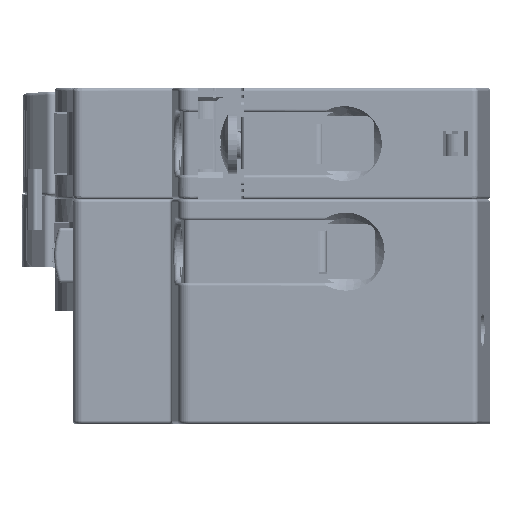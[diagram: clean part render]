
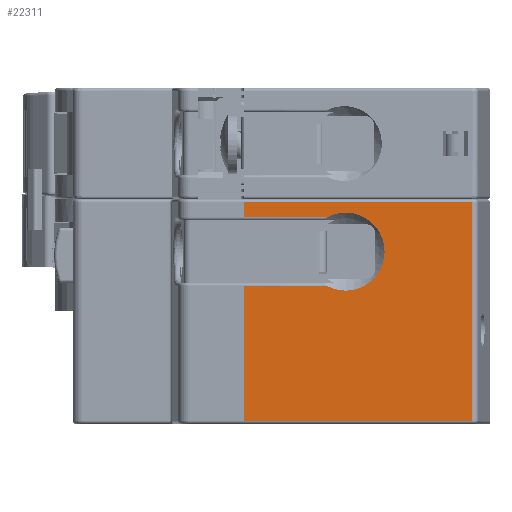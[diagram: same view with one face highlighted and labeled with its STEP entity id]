
A CAD part, left-side view. The second image highlights one B-rep face of the part: STEP entity #22311.
In plain terms, the highlighted planar face has unit normal (-1, 0, 0).
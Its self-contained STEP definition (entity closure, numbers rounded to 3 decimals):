
#335 = CARTESIAN_POINT ( 'NONE',  ( 0., -36.427, -36. ) ) ;
#3194 = CARTESIAN_POINT ( 'NONE',  ( 0., -36.427, -36. ) ) ;
#3392 = VERTEX_POINT ( 'NONE', #136321 ) ;
#3772 = CARTESIAN_POINT ( 'NONE',  ( 0., -13.292, -13.9 ) ) ;
#4474 = EDGE_CURVE ( 'NONE', #22038, #160444, #62212, .T. ) ;
#7648 = EDGE_CURVE ( 'NONE', #3392, #136770, #154347, .T. ) ;
#11684 = DIRECTION ( 'NONE',  ( 0., -1., 0. ) ) ;
#12101 = VECTOR ( 'NONE', #34951, 1000. ) ;
#15690 = EDGE_CURVE ( 'NONE', #107992, #161671, #79427, .T. ) ;
#17829 = CIRCLE ( 'NONE', #129821, 6.245 ) ;
#20598 = LINE ( 'NONE', #3194, #151310 ) ;
#22038 = VERTEX_POINT ( 'NONE', #3772 ) ;
#22311 = ADVANCED_FACE ( 'NONE', ( #127693 ), #114371, .T. ) ;
#30893 = ORIENTED_EDGE ( 'NONE', *, *, #7648, .T. ) ;
#33207 = EDGE_CURVE ( 'NONE', #161671, #22038, #17829, .T. ) ;
#33559 = ORIENTED_EDGE ( 'NONE', *, *, #15690, .T. ) ;
#34951 = DIRECTION ( 'NONE',  ( 0., -1., 0. ) ) ;
#37019 = CARTESIAN_POINT ( 'NONE',  ( 0., -36.427, -35.5 ) ) ;
#39685 = AXIS2_PLACEMENT_3D ( 'NONE', #335, #127061, #51202 ) ;
#44613 = CARTESIAN_POINT ( 'NONE',  ( 0., -13.292, -2.9 ) ) ;
#49373 = ORIENTED_EDGE ( 'NONE', *, *, #4474, .T. ) ;
#51202 = DIRECTION ( 'NONE',  ( 0., -1., 0. ) ) ;
#54261 = VECTOR ( 'NONE', #132158, 1000. ) ;
#55499 = VECTOR ( 'NONE', #82226, 1000. ) ;
#57998 = EDGE_CURVE ( 'NONE', #136770, #118201, #20598, .T. ) ;
#61982 = EDGE_CURVE ( 'NONE', #3392, #160444, #127002, .T. ) ;
#62212 = LINE ( 'NONE', #119418, #54261 ) ;
#63624 = VECTOR ( 'NONE', #75290, 1000. ) ;
#66615 = VERTEX_POINT ( 'NONE', #125763 ) ;
#73102 = CARTESIAN_POINT ( 'NONE',  ( 0., -12.508, -2.9 ) ) ;
#75290 = DIRECTION ( 'NONE',  ( 0., 0., 1. ) ) ;
#79003 = DIRECTION ( 'NONE',  ( 0., 0., 1. ) ) ;
#79427 = LINE ( 'NONE', #73102, #12101 ) ;
#82226 = DIRECTION ( 'NONE',  ( 0., 0., 1. ) ) ;
#87024 = VECTOR ( 'NONE', #92444, 1000. ) ;
#87312 = EDGE_CURVE ( 'NONE', #107992, #66615, #152554, .T. ) ;
#87530 = DIRECTION ( 'NONE',  ( 1., 0., 0. ) ) ;
#88735 = CARTESIAN_POINT ( 'NONE',  ( 0., -36.427, -0.5 ) ) ;
#92444 = DIRECTION ( 'NONE',  ( 0., -1., 0. ) ) ;
#94313 = VECTOR ( 'NONE', #114203, 1000. ) ;
#98282 = LINE ( 'NONE', #88735, #94313 ) ;
#99466 = CARTESIAN_POINT ( 'NONE',  ( 0., 0., -2.9 ) ) ;
#103357 = ORIENTED_EDGE ( 'NONE', *, *, #140785, .T. ) ;
#105171 = CARTESIAN_POINT ( 'NONE',  ( 0., -36.427, -35.5 ) ) ;
#107020 = CARTESIAN_POINT ( 'NONE',  ( 0., 0., -13.9 ) ) ;
#107992 = VERTEX_POINT ( 'NONE', #99466 ) ;
#109450 = CARTESIAN_POINT ( 'NONE',  ( 0., -36.427, -0.5 ) ) ;
#110825 = ORIENTED_EDGE ( 'NONE', *, *, #87312, .F. ) ;
#114203 = DIRECTION ( 'NONE',  ( 0., 1., 0. ) ) ;
#114371 = PLANE ( 'NONE',  #39685 ) ;
#116500 = ORIENTED_EDGE ( 'NONE', *, *, #33207, .T. ) ;
#118201 = VERTEX_POINT ( 'NONE', #109450 ) ;
#119418 = CARTESIAN_POINT ( 'NONE',  ( 0., 0., -13.9 ) ) ;
#125763 = CARTESIAN_POINT ( 'NONE',  ( 0., 0., -0.5 ) ) ;
#127002 = LINE ( 'NONE', #163869, #63624 ) ;
#127061 = DIRECTION ( 'NONE',  ( -1., 0., 0. ) ) ;
#127693 = FACE_OUTER_BOUND ( 'NONE', #144979, .T. ) ;
#129821 = AXIS2_PLACEMENT_3D ( 'NONE', #163356, #87530, #11684 ) ;
#129921 = ORIENTED_EDGE ( 'NONE', *, *, #57998, .T. ) ;
#132158 = DIRECTION ( 'NONE',  ( 0., 1., 0. ) ) ;
#133122 = CARTESIAN_POINT ( 'NONE',  ( 0., 0., -36. ) ) ;
#136321 = CARTESIAN_POINT ( 'NONE',  ( 0., 0., -35.5 ) ) ;
#136770 = VERTEX_POINT ( 'NONE', #37019 ) ;
#140785 = EDGE_CURVE ( 'NONE', #118201, #66615, #98282, .T. ) ;
#144979 = EDGE_LOOP ( 'NONE', ( #116500, #49373, #154700, #30893, #129921, #103357, #110825, #33559 ) ) ;
#151310 = VECTOR ( 'NONE', #79003, 1000. ) ;
#152554 = LINE ( 'NONE', #133122, #55499 ) ;
#154347 = LINE ( 'NONE', #105171, #87024 ) ;
#154700 = ORIENTED_EDGE ( 'NONE', *, *, #61982, .F. ) ;
#160444 = VERTEX_POINT ( 'NONE', #107020 ) ;
#161671 = VERTEX_POINT ( 'NONE', #44613 ) ;
#163356 = CARTESIAN_POINT ( 'NONE',  ( 0., -16.25, -8.4 ) ) ;
#163869 = CARTESIAN_POINT ( 'NONE',  ( 0., 0., -36. ) ) ;
